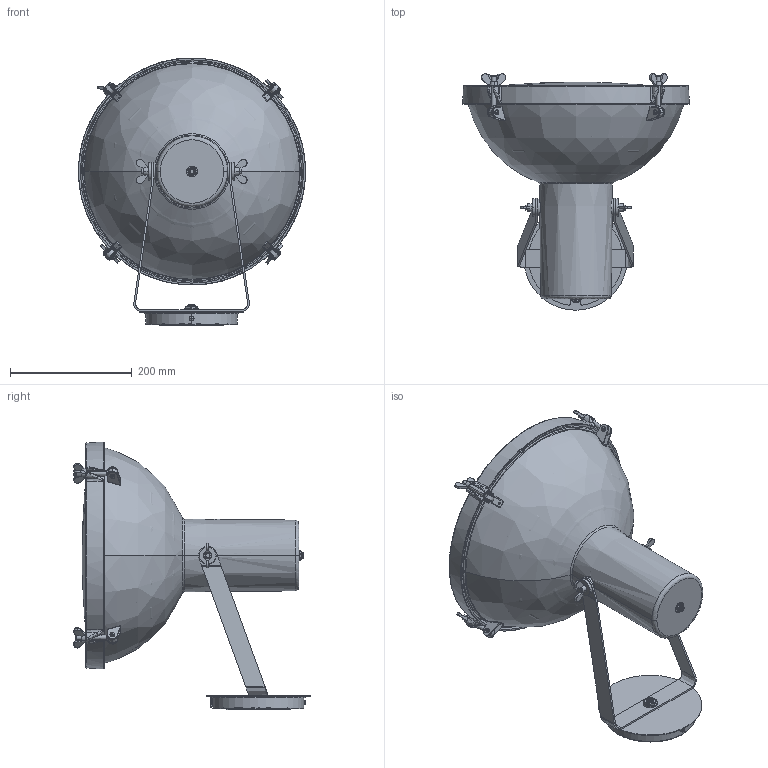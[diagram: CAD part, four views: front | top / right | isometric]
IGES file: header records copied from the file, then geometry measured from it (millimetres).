
Start section: SolidWorks IGES file using analytic representation for surfaces
Global section: file name: N:\- Ingeneria\DISEGNI\PRODOTTI\PROJECTEUR\PROJECTEUR 365\PROJECTEUR 365 - PARETE\810PRJEDW311.IGS; native system: SolidWorks 2016; preprocessor: SolidWorks 2016; author: gpinheiro; date: 160907.111008; units: millimetre
Bounding box: 372.68 x 387.62 x 440.04 mm (x, y, z)
Volume: 1262775.3 mm3; surface area: 1138557.4 mm2
Topology: 129 solids, 129 shells, 3168 faces, 7716 edges, 4812 vertices
Faces by surface type: revolution 1663, plane 1237, bspline 268
